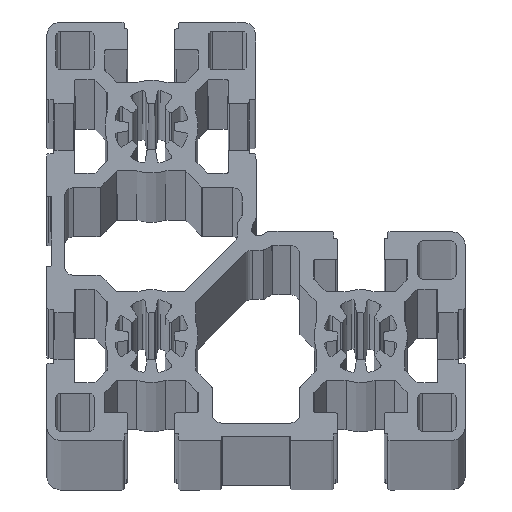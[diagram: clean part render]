
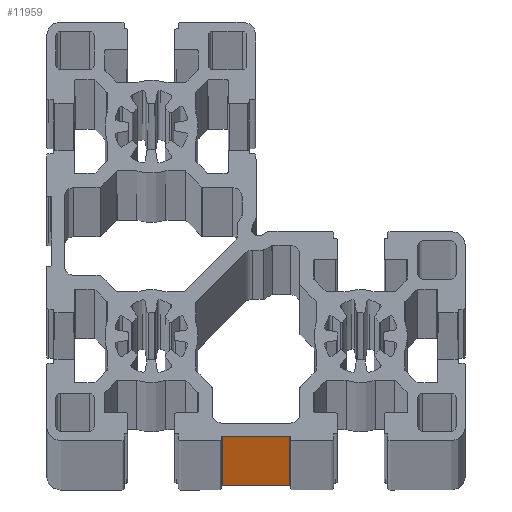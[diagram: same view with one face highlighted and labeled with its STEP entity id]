
A CAD part, top view. The second image highlights one B-rep face of the part: STEP entity #11959.
In plain terms, the highlighted planar face has unit normal (0, -1, 0).
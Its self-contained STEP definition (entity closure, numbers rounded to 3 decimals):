
#474 = VERTEX_POINT ( 'NONE', #17993 ) ;
#536 = DIRECTION ( 'NONE',  ( 0., -1., 0. ) ) ;
#816 = CARTESIAN_POINT ( 'NONE',  ( 29.8, -21.5, 0. ) ) ;
#1842 = ORIENTED_EDGE ( 'NONE', *, *, #6491, .T. ) ;
#2931 = LINE ( 'NONE', #4499, #18340 ) ;
#3166 = LINE ( 'NONE', #8079, #18486 ) ;
#3588 = PLANE ( 'NONE',  #13489 ) ;
#4161 = LINE ( 'NONE', #7608, #20268 ) ;
#4499 = CARTESIAN_POINT ( 'NONE',  ( 15.2, -21.5, -6060. ) ) ;
#4546 = ORIENTED_EDGE ( 'NONE', *, *, #14378, .F. ) ;
#4941 = CARTESIAN_POINT ( 'NONE',  ( 29.8, -21.5, -6060. ) ) ;
#6491 = EDGE_CURVE ( 'NONE', #11950, #18603, #16145, .T. ) ;
#7432 = DIRECTION ( 'NONE',  ( 1., 0., 0. ) ) ;
#7608 = CARTESIAN_POINT ( 'NONE',  ( 15.2, -21.5, 0. ) ) ;
#8079 = CARTESIAN_POINT ( 'NONE',  ( 15.2, -21.5, -6060. ) ) ;
#9863 = DIRECTION ( 'NONE',  ( 0., 0., 1. ) ) ;
#9965 = CARTESIAN_POINT ( 'NONE',  ( 29.8, -21.5, -6060. ) ) ;
#10614 = EDGE_CURVE ( 'NONE', #14177, #474, #3166, .T. ) ;
#11742 = FACE_OUTER_BOUND ( 'NONE', #17955, .T. ) ;
#11950 = VERTEX_POINT ( 'NONE', #4941 ) ;
#11959 = ADVANCED_FACE ( 'NONE', ( #11742 ), #3588, .T. ) ;
#12590 = DIRECTION ( 'NONE',  ( 0., 0., 1. ) ) ;
#13181 = CARTESIAN_POINT ( 'NONE',  ( 15.2, -21.5, -6060. ) ) ;
#13222 = CARTESIAN_POINT ( 'NONE',  ( 15.2, -21.5, -6060. ) ) ;
#13489 = AXIS2_PLACEMENT_3D ( 'NONE', #13222, #536, #18020 ) ;
#14177 = VERTEX_POINT ( 'NONE', #13181 ) ;
#14378 = EDGE_CURVE ( 'NONE', #474, #18603, #4161, .T. ) ;
#15015 = ORIENTED_EDGE ( 'NONE', *, *, #18289, .T. ) ;
#16145 = LINE ( 'NONE', #9965, #19367 ) ;
#17955 = EDGE_LOOP ( 'NONE', ( #4546, #18101, #15015, #1842 ) ) ;
#17993 = CARTESIAN_POINT ( 'NONE',  ( 15.2, -21.5, 0. ) ) ;
#18020 = DIRECTION ( 'NONE',  ( 1., 0., 0. ) ) ;
#18101 = ORIENTED_EDGE ( 'NONE', *, *, #10614, .F. ) ;
#18289 = EDGE_CURVE ( 'NONE', #14177, #11950, #2931, .T. ) ;
#18340 = VECTOR ( 'NONE', #7432, 1000. ) ;
#18486 = VECTOR ( 'NONE', #12590, 1000. ) ;
#18603 = VERTEX_POINT ( 'NONE', #816 ) ;
#18699 = DIRECTION ( 'NONE',  ( 1., 0., 0. ) ) ;
#19367 = VECTOR ( 'NONE', #9863, 1000. ) ;
#20268 = VECTOR ( 'NONE', #18699, 1000. ) ;
